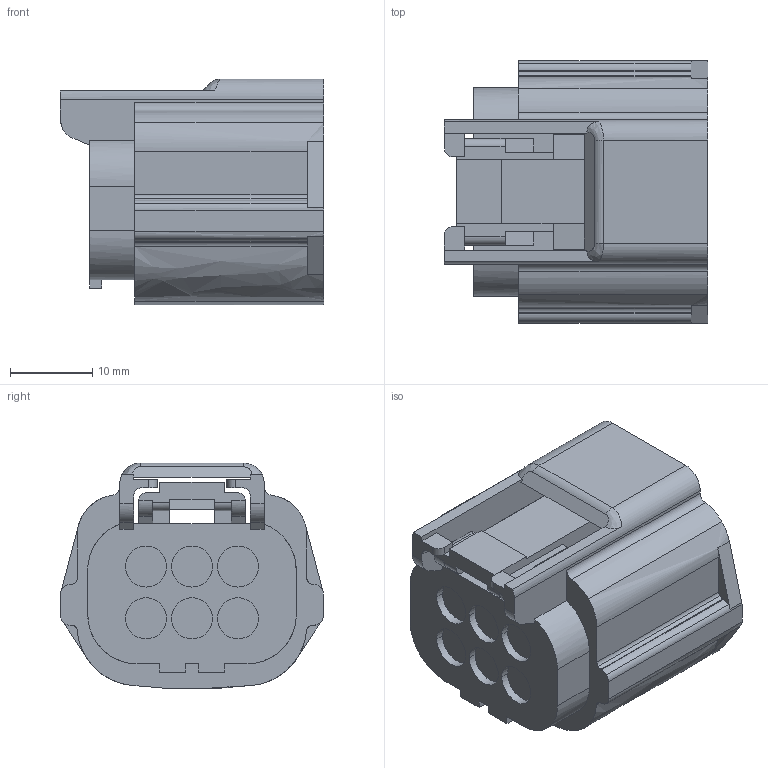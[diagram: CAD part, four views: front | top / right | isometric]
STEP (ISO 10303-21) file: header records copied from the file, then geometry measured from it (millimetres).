
FILE_DESCRIPTION(('CATIA V5 STEP Exchange'),'2;1');
FILE_NAME('N:\C-DAM_MyDesk\ENV\900093\6189-7760.stp','2017-09-20T23:59:43+00:00',('none'),('none'),'CATIA Version 5-6 Release 2015 SP4 HF29','CATIA V5 STEP AP203','none');
FILE_SCHEMA(('CONFIG_CONTROL_DESIGN'));
Length unit declared in the file: millimetre
Products named in the file (1): 6189-7760
Bounding box: 32.05 x 32 x 27.49 mm (x, y, z)
Volume: 13910 mm3; surface area: 8074 mm2
Topology: 1 solids, 1 shells, 225 faces, 637 edges, 422 vertices
Faces by surface type: plane 152, bspline 47, cylinder 26
Entity records: 7927 total; most frequent: CARTESIAN_POINT 2729, ORIENTED_EDGE 1274, DIRECTION 771, EDGE_CURVE 637, VERTEX_POINT 422, VECTOR 418, LINE 418, EDGE_LOOP 241
